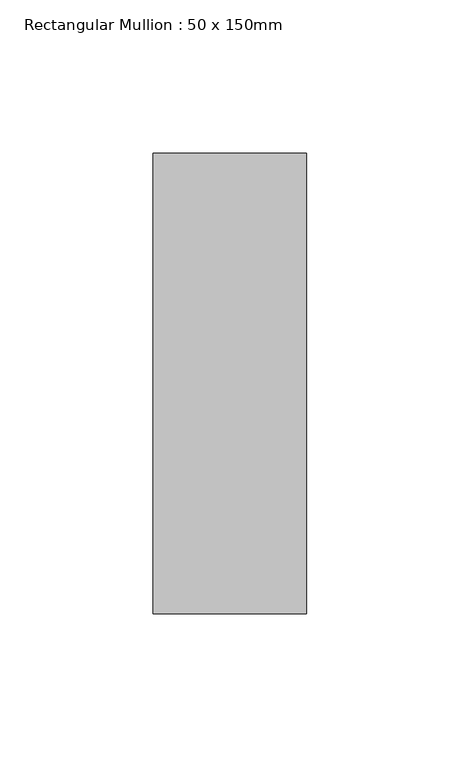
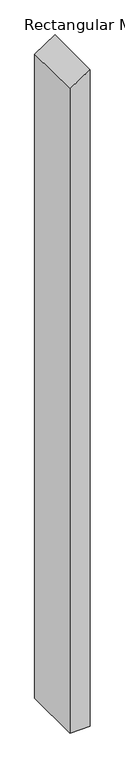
"""IFC4 building model written with IfcOpenShell, lengths in millimetres: member geometry, Rectangular Mullion : 50 x 150mm."""

from ifc_helpers import new_model, si_unit, frame, origin, place, context, project, spatial, polyline, outline, extrude, source, transform, mapped, element, save


def rectangular_mullion_50_x_150mm_11d55f0f(model_context):
    return source(origin(), model_context, "Body", "SweptSolid", [
        extrude(outline(polyline([(-43.3780246, 25.0), (-75.7358326, -25.0), (-1755.6063936, -25.0), (-1755.6063936, 25.0), (-43.3780246, 25.0)])), frame((0.0, -75.0, 0.0), z_axis=(0.0, 1.0, 0.0), x_axis=(0.0, 0.0, 1.0)), (0.0, 0.0, 1.0), 150.0),
    ])


if __name__ == "__main__":
    model = new_model("IFC4")
    model_context = context("Model", 3, world=origin())
    ifc_project = project(units=[si_unit("LENGTHUNIT", "METRE", prefix="MILLI")], contexts=[model_context])
    site = spatial("IfcSite", under=ifc_project)
    building = spatial("IfcBuilding", under=site)
    placement = place(None, origin())
    rectangular_mullion_50_x_150mm_shape = rectangular_mullion_50_x_150mm_11d55f0f(model_context)
    element("IfcMember", 1, ObjectType="Rectangular Mullion : 50 x 150mm", at=placement, inside=building, context=model_context, shape_type="MappedRepresentation", body=[
        mapped(rectangular_mullion_50_x_150mm_shape, transform((0.0, 0.0, 0.0), x_axis=(1.0, 0.0, 0.0), y_axis=(0.0, 1.0, 0.0), z_axis=(0.0, 0.0, 1.0))),
    ])
    save(model, "model.ifc")
